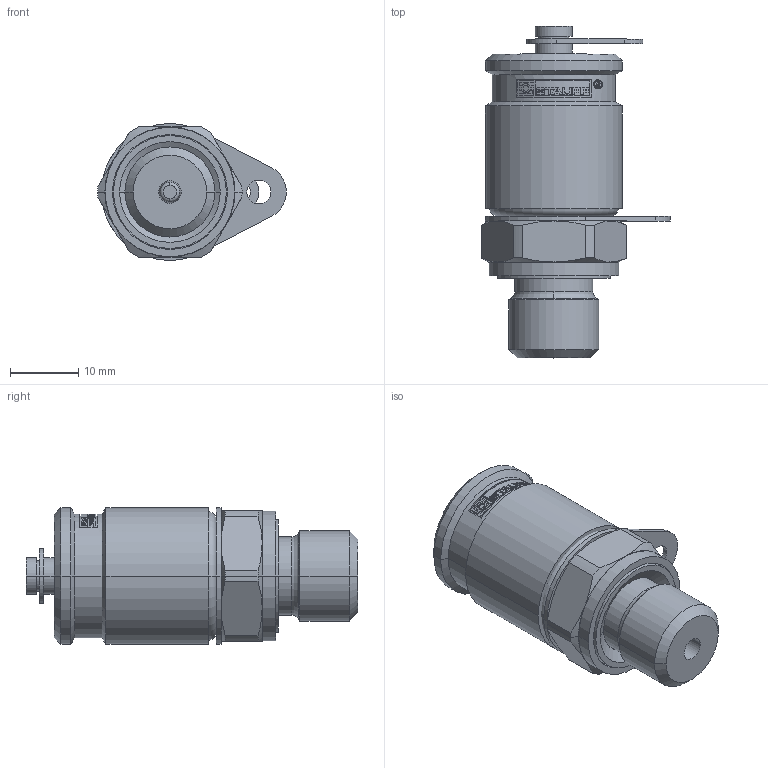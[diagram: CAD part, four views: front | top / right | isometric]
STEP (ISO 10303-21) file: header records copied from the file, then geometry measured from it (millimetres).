
FILE_DESCRIPTION(('STEP AP214'),'1');
FILE_NAME('smk20-g1_4-pc.stp','2026-03-14T04:06:34',('TraceParts'),('TraceParts S.A.S.'),'Spatial InterOp 3D',' ',' ');
FILE_SCHEMA(('AUTOMOTIVE_DESIGN { 1 0 10303 214 1 1 1 1 }'));
Length unit declared in the file: millimetre
Products named in the file (1): 1
Bounding box: 27.55 x 48.5 x 20 mm (x, y, z)
Volume: 10886 mm3; surface area: 7232.1 mm2
Topology: 6 solids, 6 shells, 305 faces, 760 edges, 491 vertices
Faces by surface type: cylinder 132, plane 127, cone 38, torus 8
Entity records: 10110 total; most frequent: CARTESIAN_POINT 2782, DIRECTION 1549, ORIENTED_EDGE 1520, EDGE_CURVE 760, AXIS2_PLACEMENT_3D 612, VERTEX_POINT 491, EDGE_LOOP 343, LINE 325
